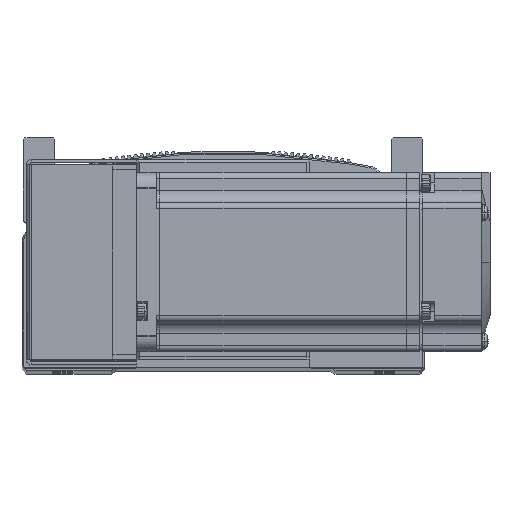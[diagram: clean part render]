
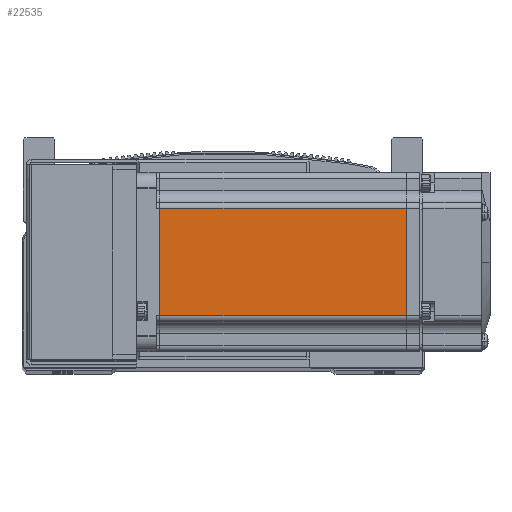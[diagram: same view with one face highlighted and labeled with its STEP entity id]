
A CAD part, top view. The second image highlights one B-rep face of the part: STEP entity #22535.
In plain terms, the highlighted planar face has unit normal (0, 0, 1) as drawn and (0, 0, -1) by its records, which use the part's own axes.
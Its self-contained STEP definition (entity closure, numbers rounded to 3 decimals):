
#1901 = ORIENTED_EDGE ( 'NONE', *, *, #72534, .T. ) ;
#1940 = ORIENTED_EDGE ( 'NONE', *, *, #72640, .T. ) ;
#1996 = ORIENTED_EDGE ( 'NONE', *, *, #72597, .T. ) ;
#2047 = ORIENTED_EDGE ( 'NONE', *, *, #72564, .T. ) ;
#3911 = DIRECTION ( 'NONE',  ( 0., 0., -1. ) ) ;
#3919 = PLANE ( 'NONE',  #68888 ) ;
#3924 = DIRECTION ( 'NONE',  ( -1., 0., 0. ) ) ;
#3957 = CARTESIAN_POINT ( 'NONE',  ( -6.5, 25., -30. ) ) ;
#7921 = LINE ( 'NONE', #11512, #7950 ) ;
#7950 = VECTOR ( 'NONE', #11498, 1000. ) ;
#7991 = VECTOR ( 'NONE', #11800, 1000. ) ;
#8008 = LINE ( 'NONE', #11759, #7991 ) ;
#8017 = LINE ( 'NONE', #11532, #8026 ) ;
#8026 = VECTOR ( 'NONE', #11644, 1000. ) ;
#8084 = LINE ( 'NONE', #12091, #8117 ) ;
#8117 = VECTOR ( 'NONE', #12054, 1000. ) ;
#11498 = DIRECTION ( 'NONE',  ( -1., 0., 0. ) ) ;
#11512 = CARTESIAN_POINT ( 'NONE',  ( -6.5, -18., -30. ) ) ;
#11532 = CARTESIAN_POINT ( 'NONE',  ( -6.5, 18., -30. ) ) ;
#11644 = DIRECTION ( 'NONE',  ( 1., 0., 0. ) ) ;
#11759 = CARTESIAN_POINT ( 'NONE',  ( -90.45, 25., -30. ) ) ;
#11800 = DIRECTION ( 'NONE',  ( 0., 1., 0. ) ) ;
#12054 = DIRECTION ( 'NONE',  ( 0., -1., 0. ) ) ;
#12091 = CARTESIAN_POINT ( 'NONE',  ( -7.75, 25., -30. ) ) ;
#22535 = ADVANCED_FACE ( 'NONE', ( #33384 ), #3919, .T. ) ;
#27584 = CARTESIAN_POINT ( 'NONE',  ( -90.45, 18., -30. ) ) ;
#27642 = CARTESIAN_POINT ( 'NONE',  ( -7.75, -18., -30. ) ) ;
#27662 = CARTESIAN_POINT ( 'NONE',  ( -90.45, -18., -30. ) ) ;
#27675 = CARTESIAN_POINT ( 'NONE',  ( -7.75, 18., -30. ) ) ;
#33384 = FACE_OUTER_BOUND ( 'NONE', #82803, .T. ) ;
#56679 = VERTEX_POINT ( 'NONE', #27584 ) ;
#56779 = VERTEX_POINT ( 'NONE', #27642 ) ;
#56818 = VERTEX_POINT ( 'NONE', #27675 ) ;
#56876 = VERTEX_POINT ( 'NONE', #27662 ) ;
#68888 = AXIS2_PLACEMENT_3D ( 'NONE', #3957, #3911, #3924 ) ;
#72534 = EDGE_CURVE ( 'NONE', #56779, #56876, #7921, .T. ) ;
#72564 = EDGE_CURVE ( 'NONE', #56679, #56818, #8017, .T. ) ;
#72597 = EDGE_CURVE ( 'NONE', #56876, #56679, #8008, .T. ) ;
#72640 = EDGE_CURVE ( 'NONE', #56818, #56779, #8084, .T. ) ;
#82803 = EDGE_LOOP ( 'NONE', ( #1940, #1901, #1996, #2047 ) ) ;
